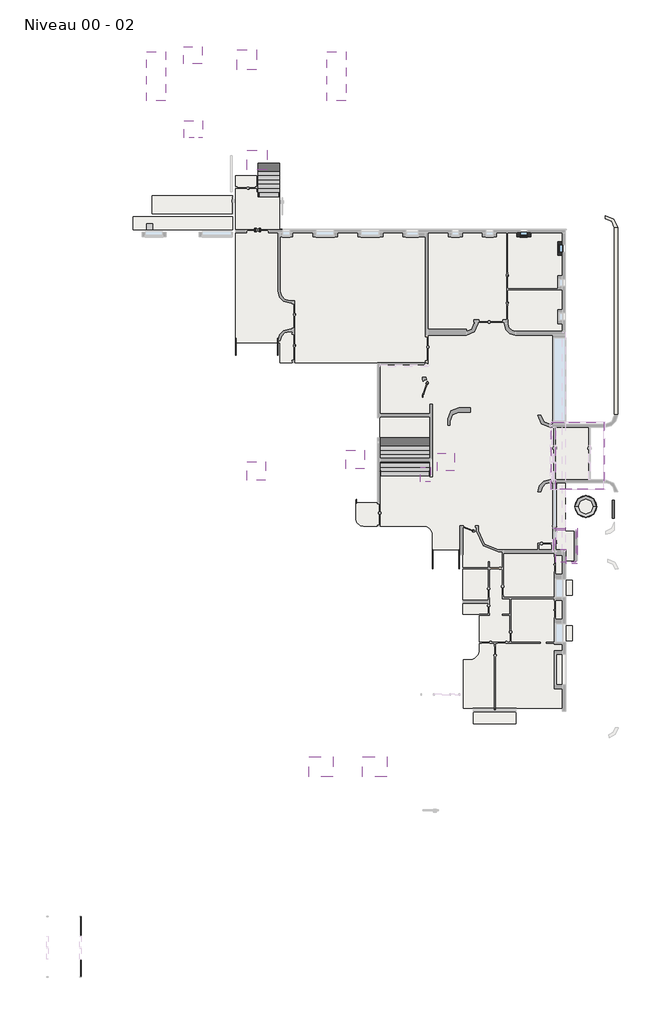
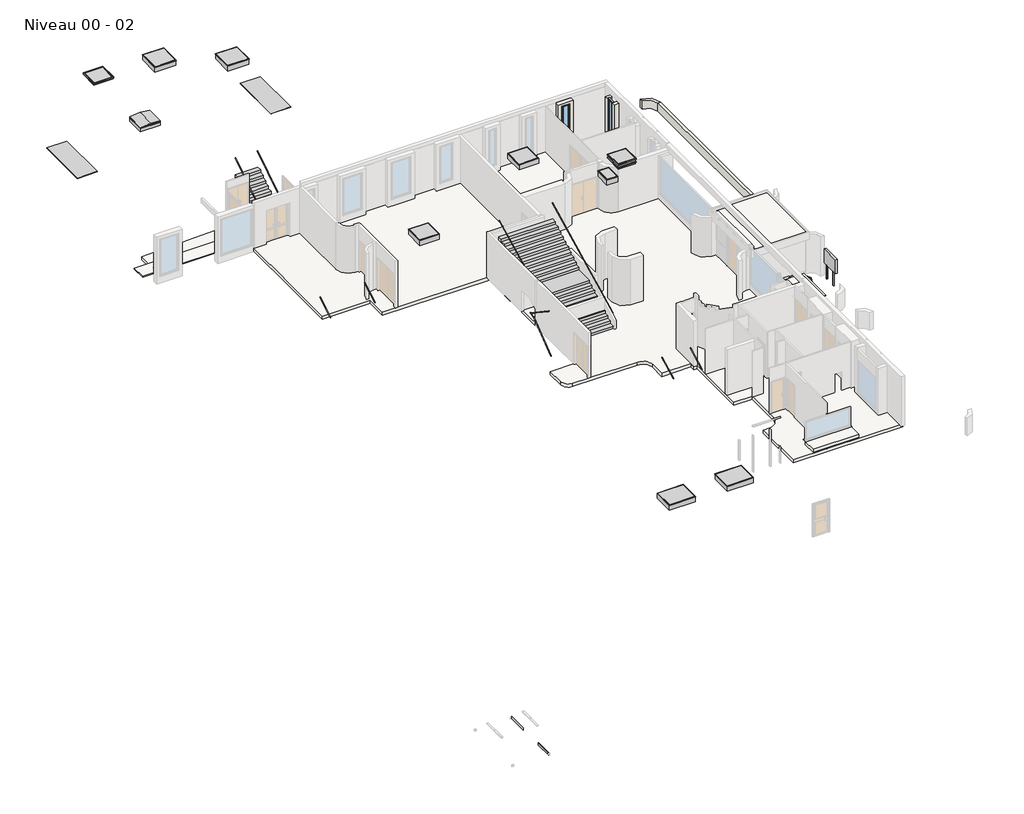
# One storey, part 6 of 6: 17 proxies, 9 railings, 8 slabs, 4 walls, 2 stair flights, 2 windows.
"""IFC4 building model written with IfcOpenShell, lengths in millimetres."""

from ifc_helpers import new_model, si_unit, point, frame, frame_2d, origin, place, context, project, spatial, polyline, circle_curve, trimmed, segment, composite_curve, outline, extrude, faceted_brep, transform, mapped, element, save
from ifc_brep_helpers import plane_surface, cylinder_surface, revolved_surface, advanced_brep
from components import generic_models_40ee845b, generic_models_4879332a, generic_models_7168af84, generic_models_2770bf2a, generic_models_51e1ae60, generic_models_aca1baa4, bac_bac_6a6e9f24, famille_0_famille_110x110_type_2_30ba7d39, famille_0_famille_120x120_8113ce87, famille_0_famille_150x120_2a5b572d, famille_0_famille_85x55_e7b3e48d, grille_sol_famille_2_82d3b247, grille_sol_famille1_70b6bea4, au_mur_cb4e08a8, au_mur_a203f208, au_mur_cce7b2e9, au_mur_52aa67d5, au_mur_fd2b3c5a, au_mur_74572a88, au_mur_01cebaf9, au_mur_88e008d0, au_mur_dbd794a3, window_48_x_240_cm_3727ab81

model = new_model("IFC4")

# Units and contexts
model_context = context("Model", 3, world=origin())
ifc_project = project(units=[si_unit("LENGTHUNIT", "METRE", prefix="MILLI")], contexts=[model_context])

# Site, building, storey
site = spatial("IfcSite", under=ifc_project)
building = spatial("IfcBuilding", under=site)
storey = spatial("IfcBuildingStorey", under=building, Name="Niveau 00 - 02", Elevation=893.3082742)

# Proxies
placement = place(None, origin())
generic_models_shape = generic_models_40ee845b(model_context)
element("IfcBuildingElementProxy", 1, Name="Skydome 1 : Skydome 110x120", ObjectType="Skydome 1 : Skydome 110x120", at=placement, inside=storey, context=model_context, shape_type="MappedRepresentation", body=[
    mapped(generic_models_shape, transform((-21571.0164155, 22312.9461001, 5959.0064777), x_axis=(0.0, -0.9998476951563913, -0.017452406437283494), y_axis=(1.0, 0.0, 0.0), z_axis=(0.0, -0.017452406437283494, 0.9998476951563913))),
])
generic_models_2_shape = generic_models_4879332a(model_context)
element("IfcBuildingElementProxy", 2, Name="Skydome 3 : Skydome 3", ObjectType="Skydome 3 : Skydome 3", at=placement, inside=storey, context=model_context, shape_type="MappedRepresentation", body=[
    mapped(generic_models_2_shape, transform((-21531.0164155, 17422.5598444, 5873.644468), x_axis=(1.0, 0.0, 0.0), y_axis=(0.0, 0.9998476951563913, 0.017452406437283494), z_axis=(0.0, -0.017452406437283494, 0.9998476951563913))),
])
generic_models_3_shape = generic_models_7168af84(model_context)
element("IfcBuildingElementProxy", 3, Name="Skydome 4 : Skydome 110x110", ObjectType="Skydome 4 : Skydome 110x110", at=placement, inside=storey, context=model_context, shape_type="MappedRepresentation", body=[
    mapped(generic_models_3_shape, transform((-4842.8651863, -4544.1151401, 10853.3082742), x_axis=(0.0, -1.0, 0.0), y_axis=(1.0, 0.0, 0.0), z_axis=(0.0, 0.0, 1.0))),
])
generic_models_4_shape = generic_models_2770bf2a(model_context)
element("IfcBuildingElementProxy", 4, Name="Modèles génériques 4 : Modèles génériques 4", ObjectType="Modèles génériques 4 : Modèles génériques 4", at=placement, inside=storey, context=model_context, shape_type="MappedRepresentation", body=[
    mapped(generic_models_4_shape, transform((-120.0, 0.0, 0.0), x_axis=(1.0, 0.0, 0.0), y_axis=(0.0, 1.0, 0.0), z_axis=(0.0, 0.0, 1.0))),
])
generic_models_5_shape = generic_models_51e1ae60(model_context)
element("IfcBuildingElementProxy", 5, Name="Modèles génériques 5 : Modèles génériques 5", ObjectType="Modèles génériques 5 : Modèles génériques 5", at=placement, inside=storey, context=model_context, shape_type="MappedRepresentation", body=[
    mapped(generic_models_5_shape, transform((0.0, 0.0, 0.0), x_axis=(1.0, 0.0, 0.0), y_axis=(0.0, 1.0, 0.0), z_axis=(0.0, 0.0, 1.0))),
])
generic_models_6_shape = generic_models_aca1baa4(model_context)
element("IfcBuildingElementProxy", 6, Name="Modèles génériques 6 : Modèles génériques 6", ObjectType="Modèles génériques 6 : Modèles génériques 6", at=placement, inside=storey, context=model_context, shape_type="MappedRepresentation", body=[
    mapped(generic_models_6_shape, transform((0.0, 0.0, 0.0), x_axis=(1.0, 0.0, 0.0), y_axis=(0.0, 1.0, 0.0), z_axis=(0.0, 0.0, 1.0))),
])
bac_bac_shape = bac_bac_6a6e9f24(model_context)
element("IfcBuildingElementProxy", 7, Name="BAC : BAC", ObjectType="BAC : BAC", at=placement, inside=storey, context=model_context, shape_type="MappedRepresentation", body=[
    mapped(bac_bac_shape, transform((0.0, 0.0, 0.0), x_axis=(1.0, 0.0, 0.0), y_axis=(0.0, 1.0, 0.0), z_axis=(0.0, 0.0, 1.0))),
])
famille_0_famille_110x110_type_2_shape = famille_0_famille_110x110_type_2_30ba7d39(model_context)
element("IfcBuildingElementProxy", 8, Name="Famille 0 : Famille 110x110", ObjectType="Famille 0 : Famille 110x110", at=placement, inside=storey, context=model_context, shape_type="MappedRepresentation", body=[
    mapped(famille_0_famille_110x110_type_2_shape, transform((-17374.0938634, -5133.9403496, 10853.3082742), x_axis=(0.0, -1.0, 0.0), y_axis=(1.0, 0.0, 0.0), z_axis=(0.0, 0.0, 1.0))),
])
element("IfcBuildingElementProxy", 9, Name="Famille 0 : Famille 110x110 TYPE 2", ObjectType="Famille 0 : Famille 110x110 TYPE 2", at=placement, inside=storey, context=model_context, shape_type="MappedRepresentation", body=[
    mapped(famille_0_famille_110x110_type_2_shape, transform((-10834.6952832, -4391.3118785, 13043.3082742), x_axis=(0.0, 1.0, 0.0), y_axis=(-1.0, 0.0, 0.0), z_axis=(0.0, 0.0, 1.0))),
])
famille_0_famille_120x120_shape = famille_0_famille_120x120_8113ce87(model_context)
element("IfcBuildingElementProxy", 10, Name="Famille 0 : Famille 120x120", ObjectType="Famille 0 : Famille 120x120", at=placement, inside=storey, context=model_context, shape_type="MappedRepresentation", body=[
    mapped(famille_0_famille_120x120_shape, transform((-17322.7958092, 15387.0022355, 9797.3082742), x_axis=(0.0, 1.0, 0.0), y_axis=(-1.0, 0.0, 0.0), z_axis=(0.0, 0.0, 1.0))),
])
element("IfcBuildingElementProxy", 11, Name="Famille 0 : Famille 120x120", ObjectType="Famille 0 : Famille 120x120", at=placement, inside=storey, context=model_context, shape_type="MappedRepresentation", body=[
    mapped(famille_0_famille_120x120_shape, transform((-18000.3577962, 21996.511151, 5953.4830851), x_axis=(0.0, -0.9998476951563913, -0.017452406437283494), y_axis=(1.0, 0.0, 0.0), z_axis=(0.0, -0.017452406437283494, 0.9998476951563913))),
])
famille_0_famille_150x120_shape = famille_0_famille_150x120_2a5b572d(model_context)
element("IfcBuildingElementProxy", 12, Name="Famille 0 : Famille 150x120", ObjectType="Famille 0 : Famille 150x120", at=placement, inside=storey, context=model_context, shape_type="MappedRepresentation", body=[
    mapped(famille_0_famille_150x120_shape, transform((-9542.5797272, -24653.822974, 4053.3082742), x_axis=(1.0, 0.0, 0.0), y_axis=(0.0, 1.0, 0.0), z_axis=(0.0, 0.0, 1.0))),
])
element("IfcBuildingElementProxy", 13, Name="Famille 0 : Famille 150x120", ObjectType="Famille 0 : Famille 150x120", at=placement, inside=storey, context=model_context, shape_type="MappedRepresentation", body=[
    mapped(famille_0_famille_150x120_shape, transform((-13101.5513349, -24653.822974, 4053.3082742), x_axis=(1.0, 0.0, 0.0), y_axis=(0.0, 1.0, 0.0), z_axis=(0.0, 0.0, 1.0))),
])
famille_0_famille_85x55_shape = famille_0_famille_85x55_e7b3e48d(model_context)
element("IfcBuildingElementProxy", 14, Name="Famille 0 : Famille 85x55", ObjectType="Famille 0 : Famille 85x55", at=placement, inside=storey, context=model_context, shape_type="MappedRepresentation", body=[
    mapped(famille_0_famille_85x55_shape, transform((-6191.6639644, -5374.0532289, 10853.3082742), x_axis=(1.0, 0.0, 0.0), y_axis=(0.0, 1.0, 0.0), z_axis=(0.0, 0.0, 1.0))),
])
grille_sol_famille_2_shape = grille_sol_famille_2_82d3b247(model_context)
element("IfcBuildingElementProxy", 15, Name="Grille sol : Famille 2", ObjectType="Grille sol : Famille 2", at=placement, inside=storey, context=model_context, shape_type="MappedRepresentation", body=[
    mapped(grille_sol_famille_2_shape, transform((-24418.9891757, 10990.6501858, 1273.0838649), x_axis=(1.0, 0.0, 0.0), y_axis=(0.0, 1.0, 0.0), z_axis=(0.0, 0.0, 1.0))),
])
grille_sol_famille1_shape = grille_sol_famille1_70b6bea4(model_context)
element("IfcBuildingElementProxy", 16, Name="Grille sol : Famille1", ObjectType="Grille sol : Famille1", at=placement, inside=storey, context=model_context, shape_type="MappedRepresentation", body=[
    mapped(grille_sol_famille1_shape, transform((-12078.9251979, 20918.9517897, 2248.3082742), x_axis=(1.0, -2.19135387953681e-10, 0.0), y_axis=(2.19135387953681e-10, 1.0, 0.0), z_axis=(0.0, 0.0, 1.0))),
])
element("IfcBuildingElementProxy", 17, Name="Grille sol : Famille1", ObjectType="Grille sol : Famille1", at=placement, inside=storey, context=model_context, shape_type="MappedRepresentation", body=[
    mapped(grille_sol_famille1_shape, transform((-23998.1782782, 20918.9517895, 2213.3082742), x_axis=(1.0, 0.0, 0.0), y_axis=(0.0, 1.0, 0.0), z_axis=(0.0, 0.0, 1.0))),
])

# Railings
au_mur_shape = au_mur_cb4e08a8(model_context)
element("IfcRailing", 18, ObjectType="Au Mur", at=placement, inside=storey, context=model_context, shape_type="MappedRepresentation", body=[
    mapped(au_mur_shape, transform((0.0, 0.0, 0.0), x_axis=(1.0, 0.0, 0.0), y_axis=(0.0, 1.0, 0.0), z_axis=(0.0, 0.0, 1.0))),
])
au_mur_2_shape = au_mur_a203f208(model_context)
element("IfcRailing", 19, ObjectType="Au Mur", at=placement, inside=storey, context=model_context, shape_type="MappedRepresentation", body=[
    mapped(au_mur_2_shape, transform((0.0, 0.0, 0.0), x_axis=(1.0, 0.0, 0.0), y_axis=(0.0, 1.0, 0.0), z_axis=(0.0, 0.0, 1.0))),
])
au_mur_3_shape = au_mur_cce7b2e9(model_context)
element("IfcRailing", 20, ObjectType="Au Mur", at=placement, inside=storey, context=model_context, shape_type="MappedRepresentation", body=[
    mapped(au_mur_3_shape, transform((0.0, 0.0, 0.0), x_axis=(1.0, 0.0, 0.0), y_axis=(0.0, 1.0, 0.0), z_axis=(0.0, 0.0, 1.0))),
])
au_mur_4_shape = au_mur_52aa67d5(model_context)
element("IfcRailing", 21, ObjectType="Au Mur", at=placement, inside=storey, context=model_context, shape_type="MappedRepresentation", body=[
    mapped(au_mur_4_shape, transform((0.0, 0.0, 0.0), x_axis=(1.0, 0.0, 0.0), y_axis=(0.0, 1.0, 0.0), z_axis=(0.0, 0.0, 1.0))),
])
au_mur_5_shape = au_mur_fd2b3c5a(model_context)
element("IfcRailing", 22, ObjectType="Au Mur", at=placement, inside=storey, context=model_context, shape_type="MappedRepresentation", body=[
    mapped(au_mur_5_shape, transform((0.0, 0.0, 0.0), x_axis=(1.0, 0.0, 0.0), y_axis=(0.0, 1.0, 0.0), z_axis=(0.0, 0.0, 1.0))),
])
au_mur_6_shape = au_mur_74572a88(model_context)
element("IfcRailing", 23, ObjectType="Au Mur", at=placement, inside=storey, context=model_context, shape_type="MappedRepresentation", body=[
    mapped(au_mur_6_shape, transform((0.0, 0.0, 0.0), x_axis=(1.0, 0.0, 0.0), y_axis=(0.0, 1.0, 0.0), z_axis=(0.0, 0.0, 1.0))),
])
au_mur_7_shape = au_mur_01cebaf9(model_context)
element("IfcRailing", 24, ObjectType="Au Mur", at=placement, inside=storey, context=model_context, shape_type="MappedRepresentation", body=[
    mapped(au_mur_7_shape, transform((0.0, 0.0, 0.0), x_axis=(1.0, 0.0, 0.0), y_axis=(0.0, 1.0, 0.0), z_axis=(0.0, 0.0, 1.0))),
])
au_mur_8_shape = au_mur_88e008d0(model_context)
element("IfcRailing", 25, ObjectType="Au Mur", at=placement, inside=storey, context=model_context, shape_type="MappedRepresentation", body=[
    mapped(au_mur_8_shape, transform((0.0, 0.0, 0.0), x_axis=(1.0, 0.0, 0.0), y_axis=(0.0, 1.0, 0.0), z_axis=(0.0, 0.0, 1.0))),
])
au_mur_9_shape = au_mur_dbd794a3(model_context)
element("IfcRailing", 26, ObjectType="Au Mur", at=placement, inside=storey, context=model_context, shape_type="MappedRepresentation", body=[
    mapped(au_mur_9_shape, transform((0.0, 0.0, 0.0), x_axis=(1.0, 0.0, 0.0), y_axis=(0.0, 1.0, 0.0), z_axis=(0.0, 0.0, 1.0))),
])

# Slabs
element("IfcSlab", 27, ObjectType="Dalle béton 200mm", at=placement, inside=storey, context=model_context, shape_type="AdvancedBrep", body=[
    advanced_brep(
    [(-15835.8209314, 13258.7206382, 693.3082742), (-15835.8209314, 10820.8848589, 693.3082742), (3047.4682677, 10820.8848589, 693.3082742), (3047.4682677, -2182.3564544, 693.3082742), (4684.2383271, -2182.3564544, 693.3082742), (4684.2383271, -5899.6253835, 693.3082742), (3047.4682841, -5899.6253835, 693.3082742), (3047.4682841, -9108.9802873, 693.3082742), (3634.7471372, -9108.9802873, 693.3082742), (3634.7471372, -11059.4963923, 693.3082742), (3057.4682686, -11059.4963923, 693.3082742), (3057.4682686, -20806.2530701, 693.3082742), (-3693.9891779, -20806.2530701, 693.3082742), (-3693.9891779, -17606.0422506, 693.3082742), (-3332.6697103, -17606.0422492, 693.3082742), (-2632.6697104, -16906.0422493, 693.3082742), (-2632.6697104, -14590.322552, 693.3082742), (-3743.9891754, -14590.322552, 693.3082742), (-3743.9891754, -10656.5819901, 693.3082742), (-3943.9891754, -10656.5819901, 693.3082742), (-3943.9891754, -10346.5819901, 693.3082742), (-5743.7533928, -10346.5819901, 693.3082742), (-5743.7533928, -9370.1262082, 693.3082742), (-6344.1439275, -8771.2578612, 693.3082742), (-10293.9891692, -8771.2578612, 693.3082742), (-10793.9891699, -8271.2578605, 693.3082742), (-10793.9891699, -7221.1974072, 693.3082742), (-9213.9891683, -7221.1974072, 693.3082742), (-9213.9891683, 2020.9456807, 693.3082742), (-15793.9891685, 2020.9456807, 693.3082742), (-15793.9891685, 3328.7206382, 693.3082742), (-18744.0938636, 3328.7206382, 693.3082742), (-18744.0938636, 14066.177026, 693.3082742), (-17344.0938634, 14066.177026, 693.3082742), (-17344.0938634, 13258.7206382, 693.3082742), (-15835.8209314, 10820.8848589, 893.3082742), (-15835.8209314, 13258.7206382, 893.3082742), (-17344.0938634, 13258.7206382, 893.3082742), (-17344.0938634, 14346.177026, 893.3082742), (-18744.0938636, 14346.177026, 893.3082742), (-18744.0938636, 3328.7206382, 893.3082742), (-15793.9891685, 3328.7206382, 893.3082742), (-15793.9891685, 2020.9456807, 893.3082742), (-9213.9891683, 2020.9456807, 893.3082742), (-9213.9891683, 1870.9456807, 893.3082742), (-9213.9891683, -7221.1974072, 893.3082742), (-9363.9891683, -7221.1974072, 893.3082742), (-10793.9891699, -7221.1974072, 893.3082742), (-10793.9891699, -8271.2578605, 893.3082742), (-10293.9891692, -8771.2578612, 893.3082742), (-9363.9891683, -8771.2578612, 893.3082742), (-9213.9891683, -8771.2578612, 893.3082742), (-6344.1439275, -8771.2578612, 893.3082742), (-5743.7533928, -9370.1262082, 893.3082742), (-5743.7533928, -10346.5819901, 893.3082742), (-3943.9891754, -10346.5819901, 893.3082742), (-3943.9891754, -10656.5819901, 893.3082742), (-3743.9891754, -10656.5819901, 893.3082742), (-3743.9891754, -14590.322552, 893.3082742), (-2632.6697104, -14590.322552, 893.3082742), (-2632.6697104, -16906.0422493, 893.3082742), (-3332.6697103, -17606.0422492, 893.3082742), (-3693.9891779, -17606.0422506, 893.3082742), (-3693.9891779, -20806.2530701, 893.3082742), (3057.4682686, -20806.2530701, 893.3082742), (3057.4682686, -11059.4963923, 893.3082742), (3634.7471372, -11059.4963923, 893.3082742), (3634.7471372, -9108.9802873, 893.3082742), (3047.4682841, -9108.9802873, 893.3082742), (3047.4682841, -5899.6253835, 893.3082742), (4684.2383271, -5899.6253835, 893.3082742), (4684.2383271, -2182.3564544, 893.3082742), (3047.4682677, -2182.3564544, 893.3082742), (3047.4682677, 10820.8848589, 893.3082742), (-3943.9891754, -10656.5819901, 733.3082742), (-18744.0938636, 14346.177026, 742.0582742), (-18744.0938636, 14066.177026, 742.0582742), (-17344.0938634, 14346.177026, 742.0582742), (-17344.0938634, 14066.177026, 742.0582742)],
    [
        (0, 1),
        (1, 2),
        (2, 3),
        (3, 4),
        (4, 5),
        (5, 6),
        (6, 7),
        (7, 8),
        (8, 9),
        (9, 10),
        (10, 11),
        (11, 12),
        (12, 13),
        (13, 14),
        (14, 15, circle_curve(frame((-3332.6697103, -16906.0422493, 693.3082742), z_axis=(0.0, 0.0, 1.0), x_axis=(1.0, 0.0, 0.0)), 699.9999999)),
        (15, 16),
        (16, 17),
        (17, 18),
        (18, 19),
        (19, 20),
        (20, 21),
        (21, 22),
        (22, 23, circle_curve(frame((-6342.6236695, -9370.1262082, 693.3082742), z_axis=(0.0, 0.0, 1.0), x_axis=(1.0, 0.0, 0.0)), 598.8702767)),
        (23, 24),
        (24, 25, circle_curve(frame((-10293.9891692, -8271.2578605, 693.3082742), z_axis=(0.0, 0.0, -1.0), x_axis=(1.0, 0.0, 0.0)), 500.0000006)),
        (25, 26),
        (26, 27),
        (27, 28),
        (28, 29),
        (29, 30),
        (30, 31),
        (31, 32),
        (32, 33),
        (33, 34),
        (34, 0),
        (35, 36),
        (36, 37),
        (37, 38),
        (38, 39),
        (39, 40),
        (40, 41),
        (41, 42),
        (42, 43),
        (43, 44),
        (44, 45),
        (45, 46),
        (46, 47),
        (47, 48),
        (48, 49, circle_curve(frame((-10293.9891692, -8271.2578605, 893.3082742), z_axis=(0.0, 0.0, 1.0), x_axis=(1.0, 0.0, 0.0)), 500.0000006)),
        (49, 50),
        (50, 51),
        (51, 52),
        (52, 53, circle_curve(frame((-6342.6236695, -9370.1262082, 893.3082742), z_axis=(0.0, 0.0, -1.0), x_axis=(1.0, 0.0, 0.0)), 598.8702767)),
        (53, 54),
        (54, 55),
        (55, 56),
        (56, 57),
        (57, 58),
        (58, 59),
        (59, 60),
        (60, 61, circle_curve(frame((-3332.6697103, -16906.0422493, 893.3082742), z_axis=(0.0, 0.0, -1.0), x_axis=(1.0, 0.0, 0.0)), 699.9999999)),
        (61, 62),
        (62, 63),
        (63, 64),
        (64, 65),
        (65, 66),
        (66, 67),
        (67, 68),
        (68, 69),
        (69, 70),
        (70, 71),
        (71, 72),
        (72, 73),
        (73, 35),
        (0, 36),
        (35, 1),
        (73, 2),
        (72, 3),
        (6, 69),
        (68, 7),
        (67, 8),
        (66, 9),
        (65, 10),
        (64, 11),
        (63, 12),
        (71, 4),
        (70, 5),
        (62, 13),
        (61, 14),
        (60, 15),
        (59, 16),
        (58, 17),
        (57, 18),
        (56, 74),
        (74, 19),
        (53, 22),
        (21, 54),
        (52, 23),
        (49, 24),
        (28, 43),
        (42, 29),
        (41, 30),
        (40, 31),
        (39, 75),
        (75, 76),
        (76, 32),
        (34, 37),
        (38, 77),
        (77, 75),
        (33, 78),
        (78, 77),
        (78, 76),
        (27, 45),
        (48, 25),
        (47, 26),
        (55, 20),
    ],
    [
        plane_surface(frame((3047.4682677, 10820.8848589, 693.3082742), z_axis=(0.0, 0.0, -1.0), x_axis=(1.0, 0.0, 0.0))),
        plane_surface(frame((3047.4682677, 10820.8848589, 893.3082742), z_axis=(0.0, 0.0, 1.0), x_axis=(-1.0, 0.0, 0.0))),
        plane_surface(frame((-15835.8209314, 13258.7206382, 693.3082742), z_axis=(1.0, 0.0, 0.0), x_axis=(0.0, 0.0, 1.0))),
        plane_surface(frame((-15835.8209314, 10820.8848589, 693.3082742), z_axis=(0.0, 1.0, 0.0), x_axis=(0.0, 0.0, 1.0))),
        plane_surface(frame((3047.4682677, 10820.8848589, 693.3082742), z_axis=(1.0, 0.0, 0.0), x_axis=(0.0, 0.0, 1.0))),
        plane_surface(frame((3047.4682841, -5899.6253835, 693.3082742), z_axis=(1.0, 0.0, 0.0), x_axis=(0.0, 0.0, 1.0))),
        plane_surface(frame((3047.4682841, -9108.9802873, 693.3082742), z_axis=(0.0, 1.0, 0.0), x_axis=(0.0, 0.0, 1.0))),
        plane_surface(frame((3634.7471372, -9108.9802873, 693.3082742), z_axis=(1.0, 0.0, 0.0), x_axis=(0.0, 0.0, 1.0))),
        plane_surface(frame((3634.7471372, -11059.4963923, 693.3082742), z_axis=(0.0, -1.0, 0.0), x_axis=(0.0, 0.0, 1.0))),
        plane_surface(frame((3057.4682686, -11059.4963923, 693.3082742), z_axis=(1.0, 0.0, 0.0), x_axis=(0.0, 0.0, 1.0))),
        plane_surface(frame((3057.4682686, -20806.2530701, 693.3082742), z_axis=(0.0, -1.0, 0.0), x_axis=(0.0, 0.0, 1.0))),
        plane_surface(frame((3047.4682677, -2182.3564544, 693.3082742), z_axis=(0.0, 1.0, 0.0), x_axis=(0.0, 0.0, 1.0))),
        plane_surface(frame((4684.2383271, -2182.3564544, 693.3082742), z_axis=(1.0, 0.0, 0.0), x_axis=(0.0, 0.0, 1.0))),
        plane_surface(frame((4684.2383271, -5899.6253835, 693.3082742), z_axis=(0.0, -1.0, 0.0), x_axis=(0.0, 0.0, 1.0))),
        plane_surface(frame((-3693.9891779, -20806.2530701, 693.3082742), z_axis=(-1.0, 0.0, 0.0), x_axis=(0.0, 0.0, 1.0))),
        plane_surface(frame((-3693.9891779, -17606.0422506, 693.3082742), z_axis=(-3.929621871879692e-09, 1.0, 0.0), x_axis=(0.0, 0.0, 1.0))),
        revolved_surface(polyline([(-2632.6697104, -16906.0422493, 893.3082742), (-2632.6697104, -16906.0422493, 693.3082742)]), (-3332.6697103, -16906.0422493, 893.3082742), (0.0, 0.0, 1.0)),
        plane_surface(frame((-2632.6697104, -16906.0422493, 693.3082742), z_axis=(-1.0, 0.0, 0.0), x_axis=(0.0, 0.0, 1.0))),
        plane_surface(frame((-2632.6697104, -14590.322552, 693.3082742), z_axis=(0.0, -1.0, 0.0), x_axis=(0.0, 0.0, 1.0))),
        plane_surface(frame((-3743.9891754, -14590.322552, 693.3082742), z_axis=(-1.0, 0.0, 0.0), x_axis=(0.0, 0.0, 1.0))),
        plane_surface(frame((-3743.9891754, -10656.5819901, 693.3082742), z_axis=(0.0, -1.0, 0.0), x_axis=(0.0, 0.0, 1.0))),
        plane_surface(frame((-5743.7533928, -10656.5819901, 693.3082742), z_axis=(-1.0, 0.0, 0.0), x_axis=(0.0, 0.0, 1.0))),
        revolved_surface(polyline([(-5743.753392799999, -9370.1262082, 893.3082742), (-5743.753392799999, -9370.1262082, 693.3082742)]), (-6342.6236695, -9370.1262082, 893.3082742), (0.0, 0.0, 1.0)),
        plane_surface(frame((-6344.1439275, -8771.2578612, 693.3082742), z_axis=(0.0, -1.0, 0.0), x_axis=(0.0, 0.0, 1.0))),
        plane_surface(frame((-9213.9891683, 2020.9456807, 693.3082742), z_axis=(0.0, -1.0, 0.0), x_axis=(0.0, 0.0, 1.0))),
        plane_surface(frame((-15793.9891685, 2020.9456807, 693.3082742), z_axis=(-1.0, 0.0, 0.0), x_axis=(0.0, 0.0, 1.0))),
        plane_surface(frame((-15793.9891685, 3328.7206382, 693.3082742), z_axis=(0.0, -1.0, 0.0), x_axis=(0.0, 0.0, 1.0))),
        plane_surface(frame((-18744.0938636, 3328.7206382, 693.3082742), z_axis=(-1.0, 0.0, 0.0), x_axis=(0.0, 0.0, 1.0))),
        plane_surface(frame((-17344.0938634, 13258.7206382, 693.3082742), z_axis=(0.0, 1.0, 0.0), x_axis=(0.0, 0.0, 1.0))),
        plane_surface(frame((-18744.0938636, 14346.177026, 693.3082742), z_axis=(0.0, 1.0, 0.0), x_axis=(0.0, 0.0, 1.0))),
        plane_surface(frame((-17344.0938634, 14346.177026, 693.3082742), z_axis=(1.0, 0.0, 0.0), x_axis=(0.0, 0.0, 1.0))),
        plane_surface(frame((-17344.0938634, 14626.177026, 742.0582742), z_axis=(0.0, 0.0, -1.0), x_axis=(0.0, 1.0, 0.0))),
        plane_surface(frame((-18744.0938634, 14066.177026, 742.0582742), z_axis=(0.0, 1.0, 0.0), x_axis=(0.0, 0.0, -1.0))),
        plane_surface(frame((-9213.9891683, -7221.1974072, 693.3082742), z_axis=(-1.0, 0.0, 0.0), x_axis=(0.0, 0.0, 1.0))),
        cylinder_surface(frame((-10293.9891692, -8271.2578605, 893.3082742), z_axis=(0.0, 0.0, -1.0), x_axis=(1.0, 0.0, 0.0)), 500.0000006),
        plane_surface(frame((-10793.9891699, -8271.2578605, 693.3082742), z_axis=(-1.0, 0.0, 0.0), x_axis=(0.0, 0.0, 1.0))),
        plane_surface(frame((-10793.9891699, -7221.1974072, 693.3082742), z_axis=(0.0, 1.0, 0.0), x_axis=(0.0, 0.0, 1.0))),
        plane_surface(frame((-3943.9891754, -10656.5819901, 893.3082742), z_axis=(-1.0, 0.0, 0.0), x_axis=(0.0, 0.0, -1.0))),
        plane_surface(frame((-3943.9891754, -10346.5819901, 893.3082742), z_axis=(0.0, -1.0, 0.0), x_axis=(0.0, 0.0, -1.0))),
    ],
    [
        (0, [[1, 2, 3, 4, 5, 6, 7, 8, 9, 10, 11, 12, 13, 14, 15, 16, 17, 18, 19, 20, 21, 22, 23, 24, 25, 26, 27, 28, 29, 30, 31, 32, 33, 34, 35]]),
        (1, [[36, 37, 38, 39, 40, 41, 42, 43, 44, 45, 46, 47, 48, 49, 50, 51, 52, 53, 54, 55, 56, 57, 58, 59, 60, 61, 62, 63, 64, 65, 66, 67, 68, 69, 70, 71, 72, 73, 74]]),
        (2, [[-1, 75, -36, 76]]),
        (3, [[-2, -76, -74, 77]]),
        (4, [[-3, -77, -73, 78]]),
        (5, [[-7, 79, -69, 80]]),
        (6, [[-8, -80, -68, 81]]),
        (7, [[-9, -81, -67, 82]]),
        (8, [[-10, -82, -66, 83]]),
        (9, [[-11, -83, -65, 84]]),
        (10, [[-12, -84, -64, 85]]),
        (11, [[-4, -78, -72, 86]]),
        (12, [[-5, -86, -71, 87]]),
        (13, [[-6, -87, -70, -79]]),
        (14, [[-13, -85, -63, 88]]),
        (15, [[-14, -88, -62, 89]]),
        (16, [[-15, -89, -61, 90]]),
        (17, [[-16, -90, -60, 91]]),
        (18, [[-17, -91, -59, 92]]),
        (19, [[-18, -92, -58, 93]]),
        (20, [[-93, -57, 94, 95, -19]]),
        (21, [[96, -22, 97, -54]]),
        (22, [[-23, -96, -53, 98]]),
        (23, [[-24, -98, -52, -51, -50, 99]]),
        (24, [[-29, 100, -43, 101]]),
        (25, [[-30, -101, -42, 102]]),
        (26, [[-31, -102, -41, 103]]),
        (27, [[-40, 104, 105, 106, -32, -103]]),
        (28, [[-35, 107, -37, -75]]),
        (29, [[-39, 108, 109, -104]]),
        (30, [[-38, -107, -34, 110, 111, -108]]),
        (31, [[112, -105, -109, -111]]),
        (32, [[-112, -110, -33, -106]]),
        (33, [[-28, 113, -45, -44, -100]]),
        (34, [[-25, -99, -49, 114]]),
        (35, [[-26, -114, -48, 115]]),
        (36, [[-27, -115, -47, -46, -113]]),
        (37, [[116, -20, -95, -94, -56]]),
        (38, [[-116, -55, -97, -21]]),
    ],
),
])
element("IfcSlab", 28, ObjectType="gazon 200", at=placement, inside=storey, context=model_context, shape_type="SweptSolid", body=[
    extrude(outline(polyline([(743.3082742, -18944.0938634), (943.3082742, -18944.0938634), (813.3082742, -24253.9891757), (613.3082742, -24253.9891757), (743.3082742, -18944.0938634)])), frame((0.0, 11845.6501858, 0.0), z_axis=(0.0, 1.0, 0.0), x_axis=(0.0, 0.0, 1.0)), (0.0, 0.0, 1.0), 1178.0066601),
])
element("IfcSlab", 29, ObjectType="@_Sol-Générique - 200 mm", at=placement, inside=storey, context=model_context, shape_type="SweptSolid", body=[
    extrude(outline(polyline([(2098.4732755, -1932.3694361), (5584.2383271, -1932.3694361), (5584.2383271, -6329.9413933), (2098.4732755, -6329.9413933), (2098.4732755, -1932.3694361)])), frame((0.0, 0.0, 3293.3082742), z_axis=(0.0, 0.0, 1.0), x_axis=(1.0, 0.0, 0.0)), (0.0, 0.0, 1.0), 200.0),
])
element("IfcSlab", 30, ObjectType="étanchéité terrasse 100mm", at=placement, inside=storey, context=model_context, shape_type="SweptSolid", body=[
    extrude(outline(polyline([(2420.3283813, -1932.3694361), (5584.2383271, -1932.3694361), (5584.2383271, -6329.9413933), (2420.3283813, -6329.9413933), (2420.3283813, -1932.3694361)])), frame((0.0, 0.0, 3493.3082742), z_axis=(0.0, 0.0, 1.0), x_axis=(1.0, 0.0, 0.0)), (0.0, 0.0, 1.0), 100.0),
])
element("IfcSlab", 31, ObjectType="Béton sur place 150mm", at=placement, inside=storey, context=model_context, shape_type="Brep", body=[
    faceted_brep([(2420.3283813, -9008.9802873, 2993.3082742), (3734.7471372, -9008.9802873, 2993.3082742), (3734.7471372, -9108.9802873, 2993.3082742), (3734.7471372, -11059.4963923, 2993.3082742), (3734.7471372, -11159.4963923, 2993.3082742), (3057.4682686, -11159.4963923, 2993.3082742), (2420.3283813, -11159.4963923, 2993.3082742), (2420.3283813, -9008.9802873, 3143.3082742), (2420.3283813, -11159.4963923, 3143.3082742), (3097.4682686, -11159.4963923, 3143.3082742), (3734.7471372, -11159.4963923, 3143.3082742), (3734.7471372, -11059.4963923, 3143.3082742), (3734.7471372, -9108.9802873, 3143.3082742), (3734.7471372, -9008.9802873, 3143.3082742)], [[[0, 1, 2, 3, 4, 5, 6]], [[7, 8, 9, 10, 11, 12, 13]], [[0, 6, 8, 7]], [[1, 0, 7, 13]], [[4, 3, 2, 1, 13, 12, 11, 10]], [[6, 5, 4, 10, 9, 8]]]),
])
element("IfcSlab", 32, ObjectType="étanchéité terrasse 50mm", at=placement, inside=storey, context=model_context, shape_type="SweptSolid", body=[
    extrude(outline(polyline([(2280.3283813, -8908.9802873), (3834.7471372, -8908.9802873), (3834.7471372, -11259.4963923), (3097.4682686, -11259.4963923), (3097.4682686, -10346.6335399), (2280.3283813, -10346.6335399), (2280.3283813, -8908.9802873)])), frame((0.0, 0.0, 3143.3082742), z_axis=(0.0, 0.0, 1.0), x_axis=(1.0, 0.0, 0.0)), (0.0, 0.0, 1.0), 50.0),
])
element("IfcSlab", 33, ObjectType="gazon 50", at=placement, inside=storey, context=model_context, shape_type="SweptSolid", body=[
    extrude(outline(polyline([(-25503.9891757, 11645.6501858), (-18944.0938634, 11658.6263169), (-18944.0938634, 10780.8848589), (-25503.9891757, 10780.8848589), (-25503.9891757, 11645.6501858)]), holes=[polyline([(-24618.9891757, 11190.6501858), (-24618.9891757, 10790.6501858), (-24218.9891757, 10790.6501858), (-24218.9891757, 11190.6501858), (-24618.9891757, 11190.6501858)])]), frame((0.0, 0.0, 1273.3082742), z_axis=(0.0, 0.0, 1.0), x_axis=(1.0, 0.0, 0.0)), (0.0, 0.0, 1.0), 50.0),
    extrude(outline(composite_curve([segment(trimmed(circle_curve(frame_2d((4384.5582761, -7480.014213)), 709.6276432), [point((5094.1859194, -7480.014213))], [point((3674.9306329, -7480.014213))], False, "CARTESIAN"), True, "CONTINUOUS"), segment(trimmed(circle_curve(frame_2d((4384.5582761, -7480.014213)), 709.6276432), [point((3674.9306329, -7480.014213))], [point((5094.1859194, -7480.014213))], False, "CARTESIAN"), True, "CONTINUOUS")], self_intersect=False)), frame((0.0, 0.0, 1273.3082742), z_axis=(0.0, 0.0, 1.0), x_axis=(1.0, 0.0, 0.0)), (0.0, 0.0, 1.0), 50.0),
])
element("IfcSlab", 34, ObjectType="gazon 200", at=placement, inside=storey, context=model_context, shape_type="SweptSolid", body=[
    extrude(outline(polyline([(3097.468269, -12348.2466444), (3487.4682683, -12348.2466444), (3487.4682683, -13348.2466444), (3097.468269, -13348.2466444), (3097.468269, -12348.2466444)])), frame((0.0, 0.0, 1772.5326836), z_axis=(0.0, 0.0, 1.0), x_axis=(1.0, 0.0, 0.0)), (0.0, 0.0, 1.0), 200.0),
    extrude(outline(polyline([(3487.4682683, -16348.2466444), (3097.4682683, -16348.2466444), (3097.4682683, -15348.2466444), (3487.4682683, -15348.2466444), (3487.4682683, -16348.2466444)])), frame((0.0, 0.0, 1772.5326836), z_axis=(0.0, 0.0, 1.0), x_axis=(1.0, 0.0, 0.0)), (0.0, 0.0, 1.0), 200.0),
    extrude(outline(polyline([(-223.9891744, -21821.25307), (-3048.9891744, -21821.25307), (-3048.9891744, -21006.2530701), (-223.9891744, -21006.2530701), (-223.9891744, -21821.25307)])), frame((0.0, 0.0, 1772.5326836), z_axis=(0.0, 0.0, 1.0), x_axis=(1.0, 0.0, 0.0)), (0.0, 0.0, 1.0), 200.0),
])

# Stair flights
element("IfcStairFlight", 35, ObjectType="Profondeur de structure 200 mm", at=placement, inside=storey, context=model_context, shape_type="Brep", body=[
    faceted_brep([(-9213.9891683, -5155.5708354, 1054.7637261), (-9213.9891683, -5435.5708354, 1054.7637261), (-5893.989171, -5435.5708354, 1054.7637261), (-5893.989171, -5155.5708354, 1054.7637261), (-9213.9891683, -5155.5708354, 893.3082742), (-9213.9891683, -5435.5708354, 893.3082742), (-5893.989171, -5435.5708354, 893.3082742), (-5893.989171, -5155.5708354, 893.3082742), (-9213.9891683, -4875.5708354, 1216.219178), (-9213.9891683, -5155.5708354, 1216.219178), (-5893.989171, -5155.5708354, 1216.219178), (-5893.989171, -4875.5708354, 1216.219178), (-9213.9891683, -4875.5708354, 985.3514018), (-9213.9891683, -5035.1942822, 893.3082742), (-5893.989171, -5035.1942822, 893.3082742), (-5893.989171, -4875.5708354, 985.3514018), (-9213.9891683, -4595.5708354, 1377.6746299), (-9213.9891683, -4875.5708354, 1377.6746299), (-5893.989171, -4875.5708354, 1377.6746299), (-5893.989171, -4595.5708354, 1377.6746299), (-9213.9891683, -4595.5708354, 1146.8068537), (-5893.989171, -4595.5708354, 1146.8068537), (-9213.9891683, -2582.0391818, 2307.8627931), (-5893.989171, -2582.0391818, 2307.8627931), (-5893.989171, -2915.5708354, 2115.539565), (-5893.989171, -3195.5708354, 1954.0841132), (-5893.989171, -3475.5708354, 1792.6286613), (-5893.989171, -3755.5708354, 1631.1732094), (-5893.989171, -4035.5708354, 1469.7177575), (-5893.989171, -4315.5708354, 1308.2623056), (-9213.9891683, -4315.5708354, 1308.2623056), (-9213.9891683, -4035.5708354, 1469.7177575), (-9213.9891683, -3755.5708354, 1631.1732094), (-9213.9891683, -3475.5708354, 1792.6286613), (-9213.9891683, -3195.5708354, 1954.0841132), (-9213.9891683, -2915.5708354, 2115.539565), (-9213.9891683, -4315.5708354, 1539.1300818), (-9213.9891683, -4595.5708354, 1539.1300818), (-5893.989171, -4595.5708354, 1539.1300818), (-5893.989171, -4315.5708354, 1539.1300818), (-9213.9891683, -4035.5708354, 1700.5855337), (-9213.9891683, -4315.5708354, 1700.5855337), (-5893.989171, -4315.5708354, 1700.5855337), (-5893.989171, -4035.5708354, 1700.5855337), (-9213.9891683, -3755.5708354, 1862.0409856), (-9213.9891683, -4035.5708354, 1862.0409856), (-5893.989171, -4035.5708354, 1862.0409856), (-5893.989171, -3755.5708354, 1862.0409856), (-9213.9891683, -3475.5708354, 2023.4964374), (-9213.9891683, -3755.5708354, 2023.4964374), (-5893.989171, -3755.5708354, 2023.4964374), (-5893.989171, -3475.5708354, 2023.4964374), (-9213.9891683, -3195.5708354, 2184.9518893), (-9213.9891683, -3475.5708354, 2184.9518893), (-5893.989171, -3475.5708354, 2184.9518893), (-5893.989171, -3195.5708354, 2184.9518893), (-9213.9891683, -2915.5708354, 2346.4073412), (-9213.9891683, -3195.5708354, 2346.4073412), (-5893.989171, -3195.5708354, 2346.4073412), (-5893.989171, -2915.5708354, 2346.4073412), (-9213.9891683, -2915.5708354, 2507.8627931), (-5893.989171, -2915.5708354, 2507.8627931), (-5893.989171, -2582.0391818, 2507.8627931), (-5893.989171, -1795.5708354, 2507.8627931), (-9213.9891683, -1795.5708354, 2507.8627931), (-9213.9891683, -2582.0391818, 2507.8627931), (-9213.9891683, -1795.5708354, 2307.8627931), (-5893.989171, -1795.5708354, 2307.8627931), (-9213.9891683, -1795.5708354, 2669.318245), (-5893.989171, -1795.5708354, 2669.318245), (-5893.989171, -1742.0391818, 2669.318245), (-5893.989171, -1515.5708354, 2669.318245), (-9213.9891683, -1515.5708354, 2669.318245), (-9213.9891683, -1742.0391818, 2669.318245), (-9213.9891683, -1515.5708354, 2438.4504688), (-9213.9891683, -1742.0391818, 2307.8627931), (-5893.989171, -1742.0391818, 2307.8627931), (-5893.989171, -1515.5708354, 2438.4504688), (-9213.9891683, -1235.5708354, 2830.7736969), (-9213.9891683, -1515.5708354, 2830.7736969), (-5893.989171, -1515.5708354, 2830.7736969), (-5893.989171, -1235.5708354, 2830.7736969), (-9213.9891683, -1235.5708354, 2599.9059207), (-5893.989171, -1235.5708354, 2599.9059207), (-9213.9891683, -955.5708354, 2992.2291488), (-9213.9891683, -1235.5708354, 2992.2291488), (-5893.989171, -1235.5708354, 2992.2291488), (-5893.989171, -955.5708354, 2992.2291488), (-9213.9891683, -955.5708354, 2761.3613726), (-5893.989171, -955.5708354, 2761.3613726), (-9213.9891683, -675.5708354, 3153.6846006), (-9213.9891683, -955.5708354, 3153.6846006), (-5893.989171, -955.5708354, 3153.6846006), (-5893.989171, -675.5708354, 3153.6846006), (-9213.9891683, -675.5708354, 2922.8168245), (-5893.989171, -675.5708354, 2922.8168245), (-9213.9891683, -395.5708354, 3315.1400525), (-9213.9891683, -675.5708354, 3315.1400525), (-5893.989171, -675.5708354, 3315.1400525), (-5893.989171, -395.5708354, 3315.1400525), (-9213.9891683, -395.5708354, 3084.2722764), (-5893.989171, -395.5708354, 3084.2722764), (-9213.9891683, -115.5708354, 3476.5955044), (-9213.9891683, -395.5708354, 3476.5955044), (-5893.989171, -395.5708354, 3476.5955044), (-5893.989171, -115.5708354, 3476.5955044), (-9213.9891683, -115.5708354, 3245.7277283), (-5893.989171, -115.5708354, 3245.7277283), (-9213.9891683, 164.4291646, 3638.0509563), (-9213.9891683, -115.5708354, 3638.0509563), (-5893.989171, -115.5708354, 3638.0509563), (-5893.989171, 164.4291646, 3638.0509563), (-9213.9891683, 164.4291646, 3407.1831801), (-5893.989171, 164.4291646, 3407.1831801), (-9213.9891683, 444.4291646, 3799.5064082), (-9213.9891683, 164.4291646, 3799.5064082), (-5893.989171, 164.4291646, 3799.5064082), (-5893.989171, 444.4291646, 3799.5064082), (-9213.9891683, 444.4291646, 3568.638632), (-5893.989171, 444.4291646, 3568.638632), (-9213.9891683, 724.4291646, 3960.9618601), (-9213.9891683, 444.4291646, 3960.9618601), (-5893.989171, 444.4291646, 3960.9618601), (-5893.989171, 724.4291646, 3960.9618601), (-9213.9891683, 724.4291646, 3730.0940839), (-5893.989171, 724.4291646, 3730.0940839), (-9213.9891683, 1004.4291646, 4122.417312), (-9213.9891683, 724.4291646, 4122.417312), (-5893.989171, 724.4291646, 4122.417312), (-5893.989171, 1004.4291646, 4122.417312), (-9213.9891683, 1004.4291646, 3891.5495358), (-5893.989171, 1004.4291646, 3891.5495358)], [[[0, 1, 2, 3]], [[1, 0, 4, 5]], [[2, 1, 5, 6]], [[3, 2, 6, 7]], [[8, 9, 10, 11]], [[4, 0, 9, 8, 12, 13]], [[0, 3, 10, 9]], [[3, 7, 14, 15, 11, 10]], [[16, 17, 18, 19]], [[17, 16, 20, 12, 8]], [[8, 11, 18, 17]], [[19, 18, 11, 15, 21]], [[5, 4, 13, 14, 7, 6]], [[22, 23, 24, 25, 26, 27, 28, 29, 21, 15, 14, 13, 12, 20, 30, 31, 32, 33, 34, 35]], [[36, 37, 38, 39]], [[37, 36, 30, 20, 16]], [[16, 19, 38, 37]], [[39, 38, 19, 21, 29]], [[40, 41, 42, 43]], [[41, 40, 31, 30, 36]], [[36, 39, 42, 41]], [[43, 42, 39, 29, 28]], [[44, 45, 46, 47]], [[45, 44, 32, 31, 40]], [[40, 43, 46, 45]], [[47, 46, 43, 28, 27]], [[48, 49, 50, 51]], [[49, 48, 33, 32, 44]], [[44, 47, 50, 49]], [[51, 50, 47, 27, 26]], [[52, 53, 54, 55]], [[53, 52, 34, 33, 48]], [[48, 51, 54, 53]], [[55, 54, 51, 26, 25]], [[56, 57, 58, 59]], [[57, 56, 35, 34, 52]], [[52, 55, 58, 57]], [[59, 58, 55, 25, 24]], [[60, 61, 62, 63, 64, 65]], [[56, 60, 65, 64, 66, 22, 35]], [[56, 59, 61, 60]], [[61, 59, 24, 23, 67, 63, 62]], [[68, 69, 70, 71, 72, 73]], [[64, 68, 73, 72, 74, 75, 66]], [[64, 63, 69, 68]], [[69, 63, 67, 76, 77, 71, 70]], [[78, 79, 80, 81]], [[79, 78, 82, 74, 72]], [[72, 71, 80, 79]], [[81, 80, 71, 77, 83]], [[84, 85, 86, 87]], [[85, 84, 88, 82, 78]], [[78, 81, 86, 85]], [[87, 86, 81, 83, 89]], [[90, 91, 92, 93]], [[91, 90, 94, 88, 84]], [[84, 87, 92, 91]], [[93, 92, 87, 89, 95]], [[96, 97, 98, 99]], [[97, 96, 100, 94, 90]], [[90, 93, 98, 97]], [[99, 98, 93, 95, 101]], [[102, 103, 104, 105]], [[103, 102, 106, 100, 96]], [[96, 99, 104, 103]], [[105, 104, 99, 101, 107]], [[108, 109, 110, 111]], [[109, 108, 112, 106, 102]], [[102, 105, 110, 109]], [[111, 110, 105, 107, 113]], [[114, 115, 116, 117]], [[115, 114, 118, 112, 108]], [[108, 111, 116, 115]], [[117, 116, 111, 113, 119]], [[120, 121, 122, 123]], [[121, 120, 124, 118, 114]], [[114, 117, 122, 121]], [[123, 122, 117, 119, 125]], [[126, 127, 128, 129]], [[127, 126, 130, 124, 120]], [[120, 123, 128, 127]], [[129, 128, 123, 125, 131]], [[126, 129, 131, 130]], [[23, 22, 66, 75, 76, 67]], [[76, 75, 74, 82, 88, 94, 100, 106, 112, 118, 124, 130, 131, 125, 119, 113, 107, 101, 95, 89, 83, 77]]]),
])
element("IfcStairFlight", 36, ObjectType="Profondeur de structure 200 mm", at=placement, inside=storey, context=model_context, shape_type="Brep", body=[
    faceted_brep([(-17244.0938634, 13258.7206382, 1076.4613254), (-17244.0938634, 12978.7206382, 1076.4613254), (-15835.8209314, 12978.7206382, 1076.4613254), (-15835.8209314, 13258.7206382, 1076.4613254), (-17244.0938634, 13258.7206382, 893.3082742), (-17244.0938634, 12978.7206382, 893.3082742), (-15835.8209314, 12978.7206382, 893.3082742), (-15835.8209314, 13258.7206382, 893.3082742), (-17244.0938634, 13538.7206382, 1259.6143766), (-17244.0938634, 13258.7206382, 1259.6143766), (-15835.8209314, 13258.7206382, 1259.6143766), (-15835.8209314, 13538.7206382, 1259.6143766), (-17244.0938634, 13538.7206382, 1020.6273133), (-17244.0938634, 13344.0783392, 893.3082742), (-15835.8209314, 13344.0783392, 893.3082742), (-15835.8209314, 13538.7206382, 1020.6273133), (-17244.0938634, 13818.7206382, 1442.7674277), (-17244.0938634, 13538.7206382, 1442.7674277), (-15835.8209314, 13538.7206382, 1442.7674277), (-15835.8209314, 13818.7206382, 1442.7674277), (-17244.0938634, 13818.7206382, 1203.7803645), (-15835.8209314, 13818.7206382, 1203.7803645), (-17244.0938634, 14098.7206382, 1386.9334157), (-17244.0938634, 14378.7206382, 1570.0864668), (-17244.0938634, 14658.7206382, 1753.239518), (-17244.0938634, 14938.7206382, 1936.3925692), (-17244.0938634, 15218.7206382, 2119.5456203), (-15835.8209314, 15218.7206382, 2119.5456203), (-15835.8209314, 14938.7206382, 1936.3925692), (-15835.8209314, 14658.7206382, 1753.239518), (-15835.8209314, 14378.7206382, 1570.0864668), (-15835.8209314, 14098.7206382, 1386.9334157), (-17244.0938634, 14098.7206382, 1625.9204789), (-17244.0938634, 13818.7206382, 1625.9204789), (-15835.8209314, 13818.7206382, 1625.9204789), (-15835.8209314, 14098.7206382, 1625.9204789), (-17244.0938634, 14378.7206382, 1809.0735301), (-17244.0938634, 14098.7206382, 1809.0735301), (-15835.8209314, 14098.7206382, 1809.0735301), (-15835.8209314, 14378.7206382, 1809.0735301), (-17244.0938634, 14658.7206382, 1992.2265812), (-17244.0938634, 14378.7206382, 1992.2265812), (-15835.8209314, 14378.7206382, 1992.2265812), (-15835.8209314, 14658.7206382, 1992.2265812), (-17244.0938634, 14938.7206382, 2175.3796324), (-17244.0938634, 14658.7206382, 2175.3796324), (-15835.8209314, 14658.7206382, 2175.3796324), (-15835.8209314, 14938.7206382, 2175.3796324), (-17244.0938634, 15218.7206382, 2358.5326836), (-17244.0938634, 14938.7206382, 2358.5326836), (-15835.8209314, 14938.7206382, 2358.5326836), (-15835.8209314, 15218.7206382, 2358.5326836)], [[[0, 1, 2, 3]], [[1, 0, 4, 5]], [[2, 1, 5, 6]], [[3, 2, 6, 7]], [[8, 9, 10, 11]], [[4, 0, 9, 8, 12, 13]], [[0, 3, 10, 9]], [[3, 7, 14, 15, 11, 10]], [[16, 17, 18, 19]], [[17, 16, 20, 12, 8]], [[8, 11, 18, 17]], [[19, 18, 11, 15, 21]], [[5, 4, 13, 14, 7, 6]], [[14, 13, 12, 20, 22, 23, 24, 25, 26, 27, 28, 29, 30, 31, 21, 15]], [[32, 33, 34, 35]], [[33, 32, 22, 20, 16]], [[16, 19, 34, 33]], [[35, 34, 19, 21, 31]], [[36, 37, 38, 39]], [[37, 36, 23, 22, 32]], [[32, 35, 38, 37]], [[39, 38, 35, 31, 30]], [[40, 41, 42, 43]], [[41, 40, 24, 23, 36]], [[36, 39, 42, 41]], [[43, 42, 39, 30, 29]], [[44, 45, 46, 47]], [[45, 44, 25, 24, 40]], [[40, 43, 46, 45]], [[47, 46, 43, 29, 28]], [[48, 49, 50, 51]], [[49, 48, 26, 25, 44]], [[44, 47, 50, 49]], [[51, 50, 47, 28, 27]], [[48, 51, 27, 26]]]),
])

# Walls
element("IfcWall", 37, ObjectType="Mur EXE 200- Hach", at=placement, inside=storey, context=model_context, shape_type="SweptSolid", body=[
    extrude(outline(polyline([(6484.3349822, 10929.2988668), (6484.3349822, -1387.6804699), (6284.3349822, -1387.6804699), (6284.3349822, 10927.3637073), (6484.3349822, 10929.2988668)])), frame((0.0, 0.0, 843.3082742), z_axis=(0.0, 0.0, 1.0), x_axis=(1.0, 0.0, 0.0)), (0.0, 0.0, 1.0), 529.747366),
])
element("IfcWall", 38, ObjectType="Mur EXE 200- Hach", at=placement, inside=storey, context=model_context, shape_type="SweptSolid", body=[
    extrude(outline(composite_curve([segment(polyline([(6484.3349822, 10929.2988668), (6284.3349822, 10927.3637073)]), True, "CONTINUOUS"), segment(trimmed(circle_curve(frame_2d((5684.4653665, 10914.8559072)), 600.0000008), [point((6284.3349822, 10927.3637073))], [point((5684.4653665, 11514.8559081))], True, "CARTESIAN"), True, "CONTINUOUS"), segment(polyline([(5684.4653665, 11514.8559081), (5684.4653665, 11714.8559081)]), True, "CONTINUOUS"), segment(trimmed(circle_curve(frame_2d((5684.4653665, 10914.8559072)), 800.0000008), [point((5684.4653665, 11714.8559081))], [point((6484.3349822, 10929.2988668))], False, "CARTESIAN"), True, "CONTINUOUS")], self_intersect=False)), frame((0.0, 0.0, 843.3082742), z_axis=(0.0, 0.0, 1.0), x_axis=(1.0, 0.0, 0.0)), (0.0, 0.0, 1.0), 529.747366),
])
element("IfcWall", 39, ObjectType="Mur EXE 300- Hach 2 faces", at=placement, inside=storey, context=model_context, shape_type="SweptSolid", body=[
    extrude(outline(polyline([(10007.2984927, 893.3082742), (9087.2984928, 893.3082742), (9087.2984928, 3673.3082742), (9307.2984927, 3673.3082742), (9307.2984927, 1323.3082742), (9787.2984927, 1323.3082742), (9787.2984927, 3673.3082742), (10007.2984927, 3673.3082742), (10007.2984927, 893.3082742)])), frame((2547.4682683, 0.0, 0.0), z_axis=(1.0, 0.0, 0.0), x_axis=(0.0, 1.0, 0.0)), (0.0, 0.0, 1.0), 300.0),
])
element("IfcWall", 40, ObjectType="Ext. Voile BA 300", at=placement, inside=storey, context=model_context, shape_type="Brep", body=[
    faceted_brep([(750.2678454, 10620.8848589, 893.3082742), (-169.7321546, 10620.8848589, 893.3082742), (-169.7321546, 10620.8848589, 3871.8727639), (750.2678454, 10620.8848589, 3871.8727639), (530.2678454, 10620.8848589, 1323.3082742), (530.2678454, 10620.8848589, 3723.3082742), (50.2678454, 10620.8848589, 3723.3082742), (50.2678454, 10620.8848589, 1323.3082742), (-169.7321546, 10320.8848589, 893.3082742), (750.2678454, 10320.8848589, 893.3082742), (750.2678454, 10320.8848589, 3871.8727639), (-169.7321546, 10320.8848589, 3871.8727639), (530.2678454, 10320.8848589, 3723.3082742), (530.2678454, 10320.8848589, 1323.3082742), (50.2678454, 10320.8848589, 1323.3082742), (50.2678454, 10320.8848589, 3723.3082742), (750.2678454, 10580.8848589, 893.3082742), (-169.7321546, 10580.8848589, 893.3082742), (-169.7321546, 10580.8848589, 3871.8727639), (-169.7321546, 10590.8848592, 3871.8727639), (750.2678454, 10590.8848592, 3871.8727639), (750.2678454, 10580.8848589, 3871.8727639)], [[[0, 1, 2, 3], [4, 5, 6, 7]], [[8, 9, 10, 11], [12, 13, 14, 15]], [[1, 0, 16, 9, 8, 17]], [[2, 1, 17, 8, 11, 18, 19]], [[0, 3, 20, 21, 10, 9, 16]], [[4, 13, 12, 5]], [[5, 12, 15, 6]], [[6, 15, 14, 7]], [[13, 4, 7, 14]], [[3, 2, 19, 20]], [[11, 10, 21, 20, 19, 18]]]),
])

# Windows
window_48_x_240_cm_shape = window_48_x_240_cm_3727ab81(model_context)
element("IfcWindow", 41, ObjectType="Fenêtre type 1 : 48 x 240 cm", at=placement, inside=storey, context=model_context, shape_type="MappedRepresentation", body=[
    mapped(window_48_x_240_cm_shape, transform((290.2678454, 10470.8848589, 523.3082742), x_axis=(-1.0, 0.0, 0.0), y_axis=(0.0, -1.0, 0.0), z_axis=(0.0, 0.0, 1.0))),
])
element("IfcWindow", 42, ObjectType="Fenêtre type 1 : 48 x 240 cm", at=placement, inside=storey, context=model_context, shape_type="MappedRepresentation", body=[
    mapped(window_48_x_240_cm_shape, transform((2697.4682683, 9547.2984927, 523.3082742), x_axis=(0.0, 1.0, 0.0), y_axis=(-1.0, 0.0, 0.0), z_axis=(0.0, 0.0, 1.0))),
])

save(model, "model.ifc")
